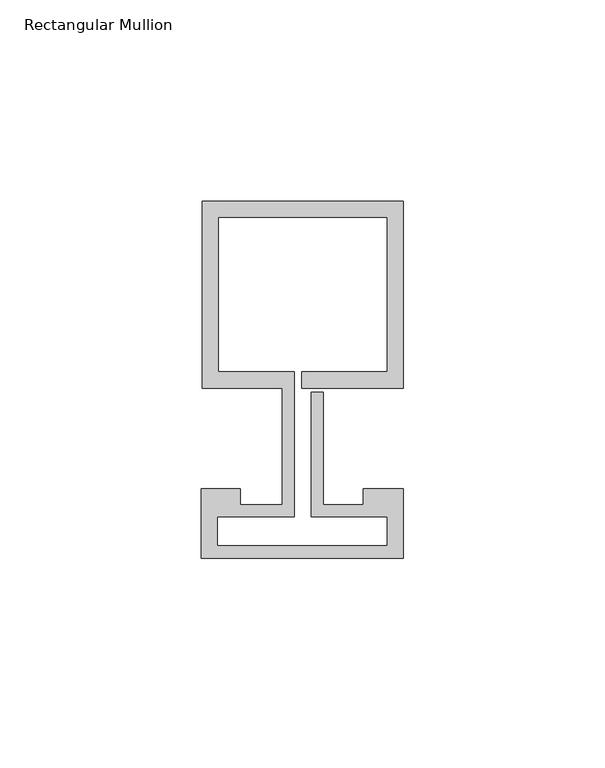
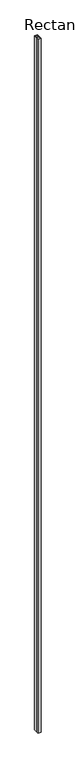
"""IFC4 building model written with IfcOpenShell, lengths in millimetres: member geometry, Rectangular Mullion : Reynaers_CW-50_Mullion-Transom_Horizontal_46.4mm_Facecap-02B."""

from ifc_helpers import new_model, si_unit, frame, origin, place, context, project, spatial, polyline, outline, extrude, source, transform, mapped, element, save


def rectangular_mullion_b691037a(model_context):
    return source(origin(), model_context, "Body", "SweptSolid", [
        extrude(outline(polyline([(-24.8004059, 58.9), (25.1995941, 58.9), (25.1995941, 12.5), (0.0, 12.5), (0.0, 16.5), (21.1995941, 16.5), (21.1995941, 54.9), (-20.8004059, 54.9), (-20.8004059, 16.5), (-1.9004059, 16.5), (-1.9004059, -19.5), (-20.994845, -19.5), (-20.994845, -26.7191338), (21.1995941, -26.7191338), (21.1995941, -19.5), (2.2995941, -19.5), (2.2995941, 11.5), (5.2995941, 11.5), (5.2995941, -16.5), (15.2996495, -16.5), (15.2996495, -12.5), (25.1995941, -12.5), (25.1995941, -29.8), (-24.994845, -29.8), (-24.994845, -12.5), (-15.2996495, -12.5), (-15.2996495, -16.5), (-4.9004059, -16.5), (-4.9004059, 12.5), (-24.8004059, 12.5), (-24.8004059, 58.9)])), frame((0.0, 0.0, -12000.0), z_axis=(0.0, 0.0, 1.0), x_axis=(1.0, 0.0, 0.0)), (0.0, 0.0, 1.0), 12000.0),
    ])


if __name__ == "__main__":
    model = new_model("IFC4")
    model_context = context("Model", 3, world=origin())
    ifc_project = project(units=[si_unit("LENGTHUNIT", "METRE", prefix="MILLI")], contexts=[model_context])
    site = spatial("IfcSite", under=ifc_project)
    building = spatial("IfcBuilding", under=site)
    placement = place(None, origin())
    rectangular_mullion_shape = rectangular_mullion_b691037a(model_context)
    element("IfcMember", 1, ObjectType="Rectangular Mullion : Reynaers_CW-50_Mullion-Transom_Horizontal_46.4mm_Facecap-02B", at=placement, inside=building, context=model_context, shape_type="MappedRepresentation", body=[
        mapped(rectangular_mullion_shape, transform((0.0, 0.0, 0.0), x_axis=(1.0, 0.0, 0.0), y_axis=(0.0, 1.0, 0.0), z_axis=(0.0, 0.0, 1.0))),
    ])
    save(model, "model.ifc")
